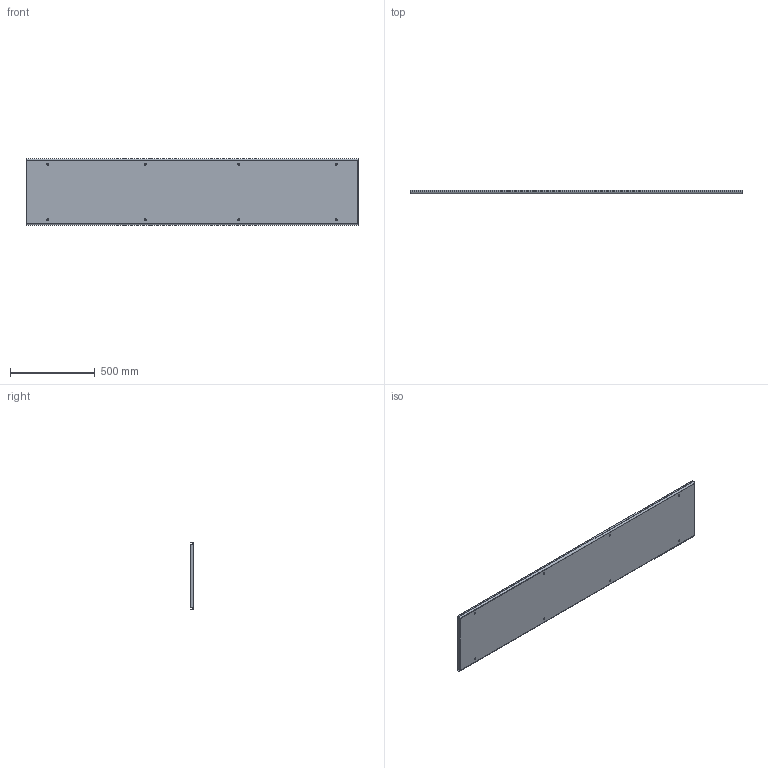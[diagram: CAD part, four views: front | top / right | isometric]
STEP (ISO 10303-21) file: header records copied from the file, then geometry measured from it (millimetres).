
FILE_DESCRIPTION(('CAx-IF Rec.Pracs.---Model Styling and Organization---1.2---2011-12-15','CAx-IF Rec.Pracs.---Geometric and Assembly Validation Properties---4.1---2014-06-16','CAx-IF Rec.Pracs.---PMI Polyline Presentation---2.0---2013-05-24'),'2;1');
FILE_NAME('R5CRE2040.stp','2021-05-06T03:12:35+03:00',(''),(''),'STEP Interface 4.4 by CT CoreTechnologie','3D_Evolution4.4 by CT CoreTechnologie','');
FILE_SCHEMA(('AUTOMOTIVE_DESIGN { 1 0 10303 214 1 1 1 1 }'));
Length unit declared in the file: millimetre
Products named in the file (4): R5CRE2040; AC00C622; QB05T081; QB05C081
Assembly tree (10 placements, depth 3):
  R5CRE2040
    AC00C622  x8
    QB05T081
      QB05C081
Bounding box: 1955 x 20 x 394 mm (x, y, z)
Surface area: 1698120.5 mm2 (no closed solid volume)
Topology: 0 solids, 11 shells, 286 faces, 808 edges, 544 vertices
Faces by surface type: plane 262, bspline 16, cylinder 8
Entity records: 3015 total; most frequent: CARTESIAN_POINT 667, ORIENTED_EDGE 440, DIRECTION 414, EDGE_CURVE 220, VECTOR 168, LINE 168, VERTEX_POINT 152, AXIS2_PLACEMENT_3D 123
